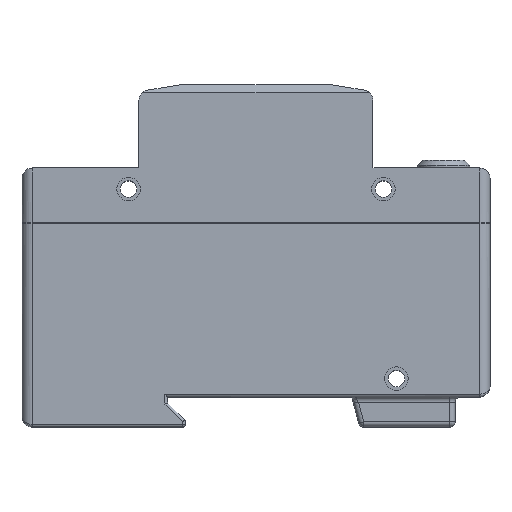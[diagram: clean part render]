
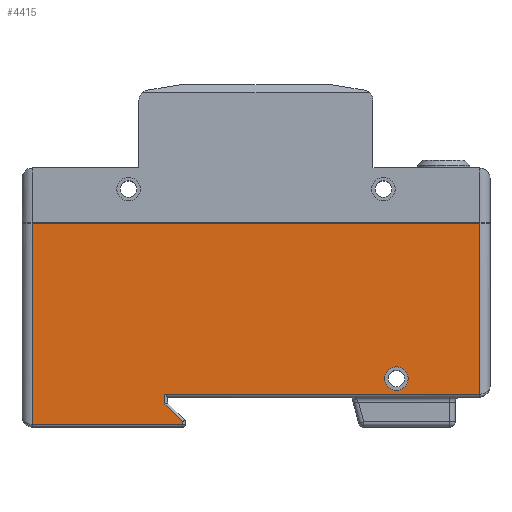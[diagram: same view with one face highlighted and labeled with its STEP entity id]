
A CAD part, top view. The second image highlights one B-rep face of the part: STEP entity #4415.
In plain terms, the highlighted planar face has unit normal (0, 0, 1).
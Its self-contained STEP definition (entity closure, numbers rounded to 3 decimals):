
#104=FACE_BOUND('',#684,.T.);
#187=PLANE('',#4763);
#421=FACE_OUTER_BOUND('',#683,.T.);
#683=EDGE_LOOP('',(#3438,#3439,#3440,#3441,#3442,#3443,#3444,#3445));
#684=EDGE_LOOP('',(#3446,#3447));
#1042=LINE('',#6744,#1503);
#1112=LINE('',#6907,#1573);
#1118=LINE('',#6922,#1579);
#1119=LINE('',#6924,#1580);
#1120=LINE('',#6926,#1581);
#1121=LINE('',#6928,#1582);
#1122=LINE('',#6930,#1583);
#1123=LINE('',#6931,#1584);
#1503=VECTOR('',#5380,10.);
#1573=VECTOR('',#5510,10.);
#1579=VECTOR('',#5524,10.);
#1580=VECTOR('',#5525,10.);
#1581=VECTOR('',#5526,10.);
#1582=VECTOR('',#5527,10.);
#1583=VECTOR('',#5528,10.);
#1584=VECTOR('',#5529,10.);
#1833=CIRCLE('',#4764,2.25);
#1834=CIRCLE('',#4765,2.25);
#2068=VERTEX_POINT('',#6741);
#2069=VERTEX_POINT('',#6743);
#2132=VERTEX_POINT('',#6905);
#2137=VERTEX_POINT('',#6921);
#2138=VERTEX_POINT('',#6923);
#2139=VERTEX_POINT('',#6925);
#2140=VERTEX_POINT('',#6927);
#2141=VERTEX_POINT('',#6929);
#2142=VERTEX_POINT('',#6932);
#2143=VERTEX_POINT('',#6933);
#2536=EDGE_CURVE('',#2069,#2068,#1042,.T.);
#2619=EDGE_CURVE('',#2132,#2068,#1112,.T.);
#2626=EDGE_CURVE('',#2137,#2132,#1118,.T.);
#2627=EDGE_CURVE('',#2138,#2137,#1119,.T.);
#2628=EDGE_CURVE('',#2139,#2138,#1120,.T.);
#2629=EDGE_CURVE('',#2140,#2139,#1121,.T.);
#2630=EDGE_CURVE('',#2141,#2140,#1122,.T.);
#2631=EDGE_CURVE('',#2069,#2141,#1123,.T.);
#2632=EDGE_CURVE('',#2142,#2143,#1833,.T.);
#2633=EDGE_CURVE('',#2143,#2142,#1834,.T.);
#3438=ORIENTED_EDGE('',*,*,#2536,.T.);
#3439=ORIENTED_EDGE('',*,*,#2619,.F.);
#3440=ORIENTED_EDGE('',*,*,#2626,.F.);
#3441=ORIENTED_EDGE('',*,*,#2627,.F.);
#3442=ORIENTED_EDGE('',*,*,#2628,.F.);
#3443=ORIENTED_EDGE('',*,*,#2629,.F.);
#3444=ORIENTED_EDGE('',*,*,#2630,.F.);
#3445=ORIENTED_EDGE('',*,*,#2631,.F.);
#3446=ORIENTED_EDGE('',*,*,#2632,.T.);
#3447=ORIENTED_EDGE('',*,*,#2633,.T.);
#4415=ADVANCED_FACE('',(#421,#104),#187,.T.);
#4763=AXIS2_PLACEMENT_3D('',#6920,#5522,#5523);
#4764=AXIS2_PLACEMENT_3D('',#6934,#5530,#5531);
#4765=AXIS2_PLACEMENT_3D('',#6935,#5532,#5533);
#5380=DIRECTION('',(-1.,0.,0.));
#5510=DIRECTION('',(0.,1.,0.));
#5522=DIRECTION('center_axis',(0.,0.,1.));
#5523=DIRECTION('ref_axis',(1.,0.,0.));
#5524=DIRECTION('',(-1.,0.,0.));
#5525=DIRECTION('',(0.,-1.,0.));
#5526=DIRECTION('',(0.718,-0.696,0.));
#5527=DIRECTION('',(0.,-1.,0.));
#5528=DIRECTION('',(-1.,0.,0.));
#5529=DIRECTION('',(0.,-1.,0.));
#5530=DIRECTION('center_axis',(0.,0.,-1.));
#5531=DIRECTION('ref_axis',(1.,0.,0.));
#5532=DIRECTION('center_axis',(0.,0.,-1.));
#5533=DIRECTION('ref_axis',(1.,0.,0.));
#6741=CARTESIAN_POINT('',(-43.,3.4,35.2));
#6743=CARTESIAN_POINT('',(43.,3.4,35.2));
#6744=CARTESIAN_POINT('',(0.046,3.4,35.2));
#6905=CARTESIAN_POINT('',(-43.,-35.3,35.2));
#6907=CARTESIAN_POINT('',(-43.,4.121,35.2));
#6920=CARTESIAN_POINT('Origin',(-0.355,-5.758,35.2));
#6921=CARTESIAN_POINT('',(-14.1,-35.3,35.2));
#6922=CARTESIAN_POINT('',(-22.678,-35.3,35.2));
#6923=CARTESIAN_POINT('',(-14.1,-34.711,35.2));
#6924=CARTESIAN_POINT('',(-14.1,-20.779,35.2));
#6925=CARTESIAN_POINT('',(-17.5,-31.411,35.2));
#6926=CARTESIAN_POINT('',(-17.721,-31.197,35.2));
#6927=CARTESIAN_POINT('',(-17.5,-29.5,35.2));
#6928=CARTESIAN_POINT('',(-17.5,-18.479,35.2));
#6929=CARTESIAN_POINT('',(43.,-29.5,35.2));
#6930=CARTESIAN_POINT('',(18.972,-29.5,35.2));
#6931=CARTESIAN_POINT('',(43.,-17.879,35.2));
#6932=CARTESIAN_POINT('',(29.25,-26.5,35.2));
#6933=CARTESIAN_POINT('',(24.75,-26.5,35.2));
#6934=CARTESIAN_POINT('Origin',(27.,-26.5,35.2));
#6935=CARTESIAN_POINT('Origin',(27.,-26.5,35.2));
